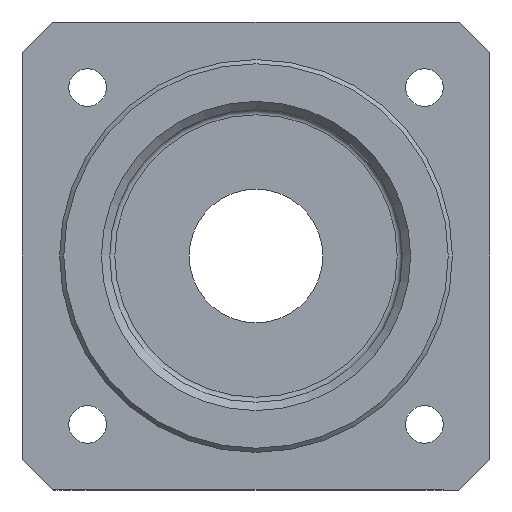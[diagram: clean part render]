
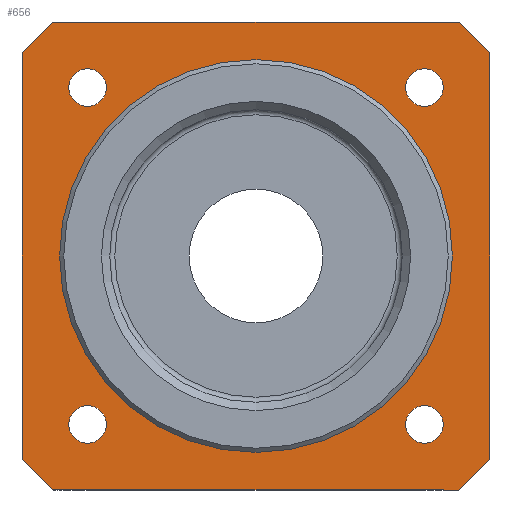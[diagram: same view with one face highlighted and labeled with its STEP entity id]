
A CAD part, left-side view. The second image highlights one B-rep face of the part: STEP entity #656.
In plain terms, the highlighted planar face has unit normal (-1, 0, 0).
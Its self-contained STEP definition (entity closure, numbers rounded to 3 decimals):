
#53=FACE_BOUND('',#194,.T.);
#54=FACE_BOUND('',#195,.T.);
#55=FACE_BOUND('',#196,.T.);
#56=FACE_BOUND('',#197,.T.);
#57=FACE_BOUND('',#198,.T.);
#72=CIRCLE('',#710,37.);
#73=CIRCLE('',#712,37.);
#74=CIRCLE('',#714,37.);
#76=CIRCLE('',#717,37.);
#79=CIRCLE('',#723,2.25);
#82=CIRCLE('',#729,2.25);
#85=CIRCLE('',#735,2.25);
#88=CIRCLE('',#741,2.25);
#98=CIRCLE('',#758,23.5);
#141=FACE_OUTER_BOUND('',#193,.T.);
#193=EDGE_LOOP('',(#562,#563,#564,#565,#566,#567,#568,#569));
#194=EDGE_LOOP('',(#570));
#195=EDGE_LOOP('',(#571));
#196=EDGE_LOOP('',(#572));
#197=EDGE_LOOP('',(#573));
#198=EDGE_LOOP('',(#574));
#211=LINE('',#1015,#243);
#215=LINE('',#1050,#247);
#219=LINE('',#1085,#251);
#223=LINE('',#1120,#255);
#243=VECTOR('',#785,10.);
#247=VECTOR('',#791,10.);
#251=VECTOR('',#797,10.);
#255=VECTOR('',#803,10.);
#284=VERTEX_POINT('',#1012);
#285=VERTEX_POINT('',#1014);
#290=VERTEX_POINT('',#1047);
#291=VERTEX_POINT('',#1049);
#296=VERTEX_POINT('',#1082);
#297=VERTEX_POINT('',#1084);
#302=VERTEX_POINT('',#1117);
#303=VERTEX_POINT('',#1119);
#313=VERTEX_POINT('',#1175);
#316=VERTEX_POINT('',#1186);
#319=VERTEX_POINT('',#1197);
#322=VERTEX_POINT('',#1208);
#331=VERTEX_POINT('',#1238);
#343=EDGE_CURVE('',#285,#284,#211,.T.);
#349=EDGE_CURVE('',#291,#290,#215,.T.);
#355=EDGE_CURVE('',#297,#296,#219,.T.);
#361=EDGE_CURVE('',#303,#302,#223,.T.);
#377=EDGE_CURVE('',#303,#296,#72,.T.);
#378=EDGE_CURVE('',#291,#302,#73,.T.);
#379=EDGE_CURVE('',#285,#290,#74,.T.);
#381=EDGE_CURVE('',#297,#284,#76,.T.);
#386=EDGE_CURVE('',#313,#313,#79,.T.);
#391=EDGE_CURVE('',#316,#316,#82,.T.);
#396=EDGE_CURVE('',#319,#319,#85,.T.);
#401=EDGE_CURVE('',#322,#322,#88,.T.);
#414=EDGE_CURVE('',#331,#331,#98,.T.);
#562=ORIENTED_EDGE('',*,*,#343,.T.);
#563=ORIENTED_EDGE('',*,*,#381,.F.);
#564=ORIENTED_EDGE('',*,*,#355,.T.);
#565=ORIENTED_EDGE('',*,*,#377,.F.);
#566=ORIENTED_EDGE('',*,*,#361,.T.);
#567=ORIENTED_EDGE('',*,*,#378,.F.);
#568=ORIENTED_EDGE('',*,*,#349,.T.);
#569=ORIENTED_EDGE('',*,*,#379,.F.);
#570=ORIENTED_EDGE('',*,*,#386,.T.);
#571=ORIENTED_EDGE('',*,*,#391,.T.);
#572=ORIENTED_EDGE('',*,*,#396,.T.);
#573=ORIENTED_EDGE('',*,*,#401,.T.);
#574=ORIENTED_EDGE('',*,*,#414,.T.);
#622=PLANE('',#759);
#656=ADVANCED_FACE('',(#141,#53,#54,#55,#56,#57),#622,.T.);
#710=AXIS2_PLACEMENT_3D('',#1159,#840,#841);
#712=AXIS2_PLACEMENT_3D('',#1161,#844,#845);
#714=AXIS2_PLACEMENT_3D('',#1163,#848,#849);
#717=AXIS2_PLACEMENT_3D('',#1166,#854,#855);
#723=AXIS2_PLACEMENT_3D('',#1177,#868,#869);
#729=AXIS2_PLACEMENT_3D('',#1188,#882,#883);
#735=AXIS2_PLACEMENT_3D('',#1199,#896,#897);
#741=AXIS2_PLACEMENT_3D('',#1210,#910,#911);
#758=AXIS2_PLACEMENT_3D('',#1239,#947,#948);
#759=AXIS2_PLACEMENT_3D('',#1241,#950,#951);
#785=DIRECTION('',(0.,0.,-1.));
#791=DIRECTION('',(0.,1.,0.));
#797=DIRECTION('',(0.,-1.,0.));
#803=DIRECTION('',(0.,0.,1.));
#840=DIRECTION('center_axis',(1.,0.,0.));
#841=DIRECTION('ref_axis',(0.,0.,-1.));
#844=DIRECTION('center_axis',(1.,0.,0.));
#845=DIRECTION('ref_axis',(0.,0.,-1.));
#848=DIRECTION('center_axis',(1.,0.,0.));
#849=DIRECTION('ref_axis',(0.,0.,-1.));
#854=DIRECTION('center_axis',(1.,0.,0.));
#855=DIRECTION('ref_axis',(0.,0.,-1.));
#868=DIRECTION('center_axis',(1.,0.,0.));
#869=DIRECTION('ref_axis',(0.,-1.,0.));
#882=DIRECTION('center_axis',(1.,0.,0.));
#883=DIRECTION('ref_axis',(0.,0.,1.));
#896=DIRECTION('center_axis',(1.,0.,0.));
#897=DIRECTION('ref_axis',(0.,1.,0.));
#910=DIRECTION('center_axis',(1.,0.,0.));
#911=DIRECTION('ref_axis',(0.,0.,-1.));
#947=DIRECTION('center_axis',(1.,0.,0.));
#948=DIRECTION('ref_axis',(0.,0.,-1.));
#950=DIRECTION('center_axis',(-1.,0.,0.));
#951=DIRECTION('ref_axis',(0.,0.,1.));
#1012=CARTESIAN_POINT('',(4.,28.,-24.187));
#1014=CARTESIAN_POINT('',(4.,28.,24.187));
#1015=CARTESIAN_POINT('',(4.,28.,-12.093));
#1047=CARTESIAN_POINT('',(4.,24.187,28.));
#1049=CARTESIAN_POINT('',(4.,-24.187,28.));
#1050=CARTESIAN_POINT('',(4.,30.593,28.));
#1082=CARTESIAN_POINT('',(4.,-24.187,-28.));
#1084=CARTESIAN_POINT('',(4.,24.187,-28.));
#1085=CARTESIAN_POINT('',(4.,6.407,-28.));
#1117=CARTESIAN_POINT('',(4.,-28.,24.187));
#1119=CARTESIAN_POINT('',(4.,-28.,-24.187));
#1120=CARTESIAN_POINT('',(4.,-28.,12.093));
#1159=CARTESIAN_POINT('Origin',(4.,0.,
0.));
#1161=CARTESIAN_POINT('Origin',(4.,0.,
0.));
#1163=CARTESIAN_POINT('Origin',(4.,0.,
0.));
#1166=CARTESIAN_POINT('Origin',(4.,0.,
0.));
#1175=CARTESIAN_POINT('',(4.,22.403,20.153));
#1177=CARTESIAN_POINT('Origin',(4.,20.153,20.153));
#1186=CARTESIAN_POINT('',(4.,20.153,-22.403));
#1188=CARTESIAN_POINT('Origin',(4.,20.153,-20.153));
#1197=CARTESIAN_POINT('',(4.,-22.403,-20.153));
#1199=CARTESIAN_POINT('Origin',(4.,-20.153,-20.153));
#1208=CARTESIAN_POINT('',(4.,-20.153,22.403));
#1210=CARTESIAN_POINT('Origin',(4.,-20.153,20.153));
#1238=CARTESIAN_POINT('',(4.,-23.5,0.));
#1239=CARTESIAN_POINT('Origin',(4.,0.,
0.));
#1241=CARTESIAN_POINT('Origin',(4.,37.,0.));
